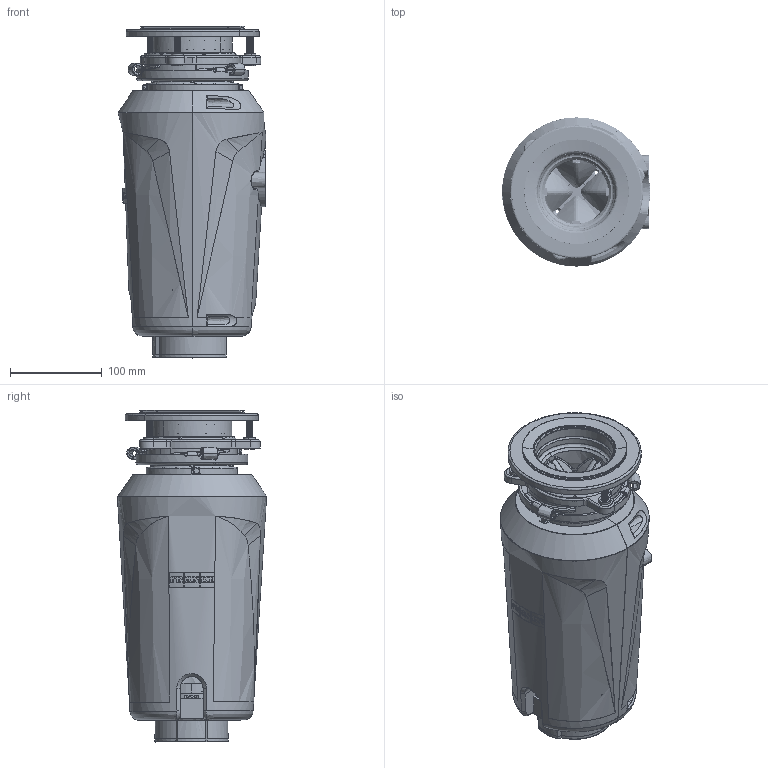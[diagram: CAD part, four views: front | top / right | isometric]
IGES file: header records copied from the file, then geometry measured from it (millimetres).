
Global section: file name: F:\_CONVERSIONE_CAD_2024_2025\_2024\03_3D kits new\Food-Waste-Disposers\134.0715.098 3D001_Food-Waste-Disposers_Elite-Slimline_Slim-50-45\3D001_Food-Waste-Disposers_Elite-Slimline_Slim-50-45.igs; native system: Rhinoceros ( Feb 13 2024 ); preprocessor: Trout Lake IGES 012 Feb 13 2024; date: 240328.113135; units: millimetre
Bounding box: 161.1 x 162.59 x 361.82 mm (x, y, z)
Surface area: 554387.6 mm2 (no closed solid volume)
Topology: 0 solids, 0 shells, 3534 faces, 26860 edges, 26823 vertices
Faces by surface type: bspline 3534
